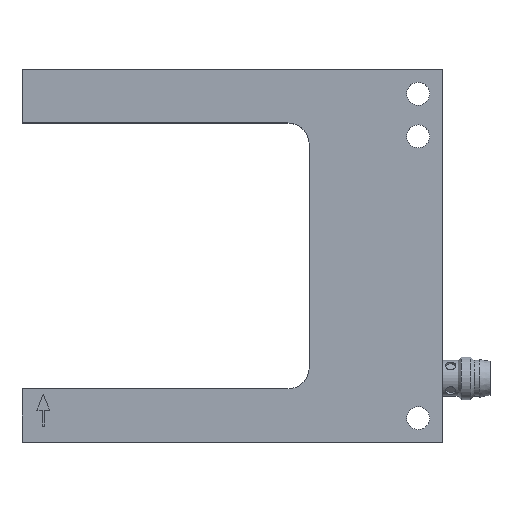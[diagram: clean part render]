
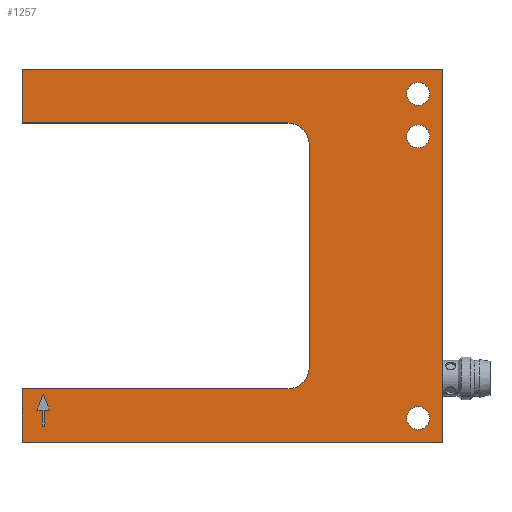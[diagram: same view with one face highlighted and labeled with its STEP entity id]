
A CAD part, top view. The second image highlights one B-rep face of the part: STEP entity #1257.
In plain terms, the highlighted planar face has unit normal (0, 0, 1).
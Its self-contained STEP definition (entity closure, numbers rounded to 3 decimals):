
#67=FACE_BOUND('',#286,.T.);
#68=FACE_BOUND('',#287,.T.);
#69=FACE_BOUND('',#288,.T.);
#70=FACE_BOUND('',#289,.T.);
#136=CIRCLE('',#1404,4.);
#137=CIRCLE('',#1405,4.);
#138=CIRCLE('',#1406,2.15);
#139=CIRCLE('',#1407,2.15);
#140=CIRCLE('',#1408,2.15);
#205=FACE_OUTER_BOUND('',#285,.T.);
#285=EDGE_LOOP('',(#1024,#1025,#1026,#1027,#1028,#1029,#1030,#1031,#1032,
#1033));
#286=EDGE_LOOP('',(#1034,#1035,#1036,#1037,#1038,#1039,#1040));
#287=EDGE_LOOP('',(#1041));
#288=EDGE_LOOP('',(#1042));
#289=EDGE_LOOP('',(#1043));
#305=LINE('',#1805,#389);
#311=LINE('',#1816,#395);
#312=LINE('',#1831,#396);
#317=LINE('',#1840,#401);
#318=LINE('',#1843,#402);
#323=LINE('',#1852,#407);
#324=LINE('',#1855,#408);
#328=LINE('',#2020,#412);
#332=LINE('',#2028,#416);
#370=LINE('',#2225,#454);
#372=LINE('',#2229,#456);
#374=LINE('',#2233,#458);
#376=LINE('',#2237,#460);
#378=LINE('',#2240,#462);
#379=LINE('',#2245,#463);
#389=VECTOR('',#1435,1000.);
#395=VECTOR('',#1443,1000.);
#396=VECTOR('',#1458,1000.);
#401=VECTOR('',#1465,1000.);
#402=VECTOR('',#1468,1000.);
#407=VECTOR('',#1475,1000.);
#408=VECTOR('',#1478,1000.);
#412=VECTOR('',#1490,1000.);
#416=VECTOR('',#1496,1000.);
#454=VECTOR('',#1718,1000.);
#456=VECTOR('',#1722,1000.);
#458=VECTOR('',#1726,1000.);
#460=VECTOR('',#1730,1000.);
#462=VECTOR('',#1734,1000.);
#463=VECTOR('',#1739,1000.);
#473=VERTEX_POINT('',#1803);
#474=VERTEX_POINT('',#1804);
#478=VERTEX_POINT('',#1814);
#485=VERTEX_POINT('',#1830);
#488=VERTEX_POINT('',#1838);
#489=VERTEX_POINT('',#1842);
#492=VERTEX_POINT('',#1850);
#493=VERTEX_POINT('',#1854);
#505=VERTEX_POINT('',#2018);
#506=VERTEX_POINT('',#2019);
#509=VERTEX_POINT('',#2027);
#576=VERTEX_POINT('',#2224);
#577=VERTEX_POINT('',#2228);
#578=VERTEX_POINT('',#2232);
#579=VERTEX_POINT('',#2236);
#580=VERTEX_POINT('',#2242);
#581=VERTEX_POINT('',#2244);
#582=VERTEX_POINT('',#2247);
#583=VERTEX_POINT('',#2249);
#584=VERTEX_POINT('',#2251);
#596=EDGE_CURVE('',#473,#474,#305,.T.);
#602=EDGE_CURVE('',#474,#478,#311,.T.);
#609=EDGE_CURVE('',#478,#485,#312,.T.);
#614=EDGE_CURVE('',#485,#488,#317,.T.);
#615=EDGE_CURVE('',#489,#473,#318,.T.);
#620=EDGE_CURVE('',#488,#492,#323,.T.);
#621=EDGE_CURVE('',#493,#489,#324,.T.);
#635=EDGE_CURVE('',#505,#506,#328,.T.);
#639=EDGE_CURVE('',#506,#509,#332,.T.);
#730=EDGE_CURVE('',#509,#576,#370,.T.);
#732=EDGE_CURVE('',#576,#577,#372,.T.);
#734=EDGE_CURVE('',#577,#578,#374,.T.);
#736=EDGE_CURVE('',#578,#579,#376,.T.);
#738=EDGE_CURVE('',#579,#505,#378,.T.);
#739=EDGE_CURVE('',#580,#492,#136,.T.);
#740=EDGE_CURVE('',#580,#581,#379,.T.);
#741=EDGE_CURVE('',#493,#581,#137,.T.);
#742=EDGE_CURVE('',#582,#582,#138,.T.);
#743=EDGE_CURVE('',#583,#583,#139,.T.);
#744=EDGE_CURVE('',#584,#584,#140,.T.);
#1024=ORIENTED_EDGE('',*,*,#596,.T.);
#1025=ORIENTED_EDGE('',*,*,#602,.T.);
#1026=ORIENTED_EDGE('',*,*,#609,.T.);
#1027=ORIENTED_EDGE('',*,*,#614,.T.);
#1028=ORIENTED_EDGE('',*,*,#620,.T.);
#1029=ORIENTED_EDGE('',*,*,#739,.F.);
#1030=ORIENTED_EDGE('',*,*,#740,.T.);
#1031=ORIENTED_EDGE('',*,*,#741,.F.);
#1032=ORIENTED_EDGE('',*,*,#621,.T.);
#1033=ORIENTED_EDGE('',*,*,#615,.T.);
#1034=ORIENTED_EDGE('',*,*,#635,.F.);
#1035=ORIENTED_EDGE('',*,*,#738,.F.);
#1036=ORIENTED_EDGE('',*,*,#736,.F.);
#1037=ORIENTED_EDGE('',*,*,#734,.F.);
#1038=ORIENTED_EDGE('',*,*,#732,.F.);
#1039=ORIENTED_EDGE('',*,*,#730,.F.);
#1040=ORIENTED_EDGE('',*,*,#639,.F.);
#1041=ORIENTED_EDGE('',*,*,#742,.F.);
#1042=ORIENTED_EDGE('',*,*,#743,.F.);
#1043=ORIENTED_EDGE('',*,*,#744,.F.);
#1134=PLANE('',#1403);
#1257=ADVANCED_FACE('',(#205,#67,#68,#69,#70),#1134,.T.);
#1403=AXIS2_PLACEMENT_3D('',#2241,#1735,#1736);
#1404=AXIS2_PLACEMENT_3D('',#2243,#1737,#1738);
#1405=AXIS2_PLACEMENT_3D('',#2246,#1740,#1741);
#1406=AXIS2_PLACEMENT_3D('',#2248,#1742,#1743);
#1407=AXIS2_PLACEMENT_3D('',#2250,#1744,#1745);
#1408=AXIS2_PLACEMENT_3D('',#2252,#1746,#1747);
#1435=DIRECTION('',(1.,0.,0.));
#1443=DIRECTION('',(0.,1.,0.));
#1458=DIRECTION('',(-1.,0.,0.));
#1465=DIRECTION('',(0.,-1.,0.));
#1468=DIRECTION('',(0.,-1.,0.));
#1475=DIRECTION('',(1.,0.,0.));
#1478=DIRECTION('',(-1.,0.,0.));
#1490=DIRECTION('',(-0.371,-0.928,0.));
#1496=DIRECTION('',(1.,0.,0.));
#1718=DIRECTION('',(0.,-1.,0.));
#1722=DIRECTION('',(1.,0.,0.));
#1726=DIRECTION('',(0.,1.,0.));
#1730=DIRECTION('',(1.,0.,0.));
#1734=DIRECTION('',(-0.371,0.928,0.));
#1735=DIRECTION('center_axis',(0.,0.,1.));
#1736=DIRECTION('ref_axis',(1.,0.,0.));
#1737=DIRECTION('center_axis',(0.,0.,1.));
#1738=DIRECTION('ref_axis',(1.,0.,0.));
#1739=DIRECTION('',(0.,-1.,0.));
#1740=DIRECTION('center_axis',(0.,0.,1.));
#1741=DIRECTION('ref_axis',(1.,0.,0.));
#1742=DIRECTION('center_axis',(0.,0.,1.));
#1743=DIRECTION('ref_axis',(1.,0.,0.));
#1744=DIRECTION('center_axis',(0.,0.,1.));
#1745=DIRECTION('ref_axis',(1.,0.,0.));
#1746=DIRECTION('center_axis',(0.,0.,1.));
#1747=DIRECTION('ref_axis',(1.,0.,0.));
#1803=CARTESIAN_POINT('',(-74.5,-65.5,10.));
#1804=CARTESIAN_POINT('',(4.5,-65.5,10.));
#1805=CARTESIAN_POINT('',(-73.5,-65.5,10.));
#1814=CARTESIAN_POINT('',(4.5,4.5,10.));
#1816=CARTESIAN_POINT('',(4.5,-61.,10.));
#1830=CARTESIAN_POINT('',(-74.5,4.5,10.));
#1831=CARTESIAN_POINT('',(0.,4.5,10.));
#1838=CARTESIAN_POINT('',(-74.5,-5.5,10.));
#1840=CARTESIAN_POINT('',(-74.5,3.5,10.));
#1842=CARTESIAN_POINT('',(-74.5,-55.5,10.));
#1843=CARTESIAN_POINT('',(-74.5,-56.,10.));
#1850=CARTESIAN_POINT('',(-24.5,-5.5,10.));
#1852=CARTESIAN_POINT('',(-74.,-5.5,10.));
#1854=CARTESIAN_POINT('',(-24.5,-55.5,10.));
#1855=CARTESIAN_POINT('',(-24.5,-55.5,10.));
#2018=CARTESIAN_POINT('',(-70.5,-56.5,10.));
#2019=CARTESIAN_POINT('',(-71.7,-59.5,10.));
#2020=CARTESIAN_POINT('',(-70.5,-56.5,10.));
#2027=CARTESIAN_POINT('',(-70.7,-59.5,10.));
#2028=CARTESIAN_POINT('',(-71.7,-59.5,10.));
#2224=CARTESIAN_POINT('',(-70.7,-62.5,10.));
#2225=CARTESIAN_POINT('',(-70.7,-59.5,10.));
#2228=CARTESIAN_POINT('',(-70.3,-62.5,10.));
#2229=CARTESIAN_POINT('',(-70.7,-62.5,10.));
#2232=CARTESIAN_POINT('',(-70.3,-59.5,10.));
#2233=CARTESIAN_POINT('',(-70.3,-62.5,10.));
#2236=CARTESIAN_POINT('',(-69.3,-59.5,10.));
#2237=CARTESIAN_POINT('',(-70.3,-59.5,10.));
#2240=CARTESIAN_POINT('',(-69.3,-59.5,10.));
#2241=CARTESIAN_POINT('Origin',(-73.5,3.5,10.));
#2242=CARTESIAN_POINT('',(-20.5,-9.5,10.));
#2243=CARTESIAN_POINT('Origin',(-24.5,-9.5,10.));
#2244=CARTESIAN_POINT('',(-20.5,-51.5,10.));
#2245=CARTESIAN_POINT('',(-20.5,-9.5,10.));
#2246=CARTESIAN_POINT('Origin',(-24.5,-51.5,10.));
#2247=CARTESIAN_POINT('',(2.15,-8.,10.));
#2248=CARTESIAN_POINT('Origin',(0.,-8.,
10.));
#2249=CARTESIAN_POINT('',(2.15,0.,10.));
#2250=CARTESIAN_POINT('Origin',(0.,0.,
10.));
#2251=CARTESIAN_POINT('',(2.15,-61.,10.));
#2252=CARTESIAN_POINT('Origin',(0.,-61.,10.));
